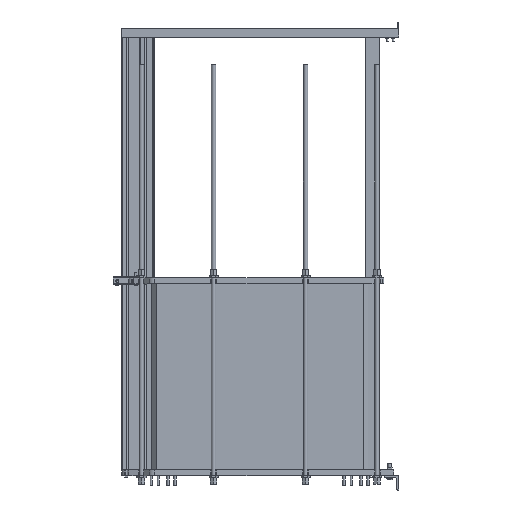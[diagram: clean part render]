
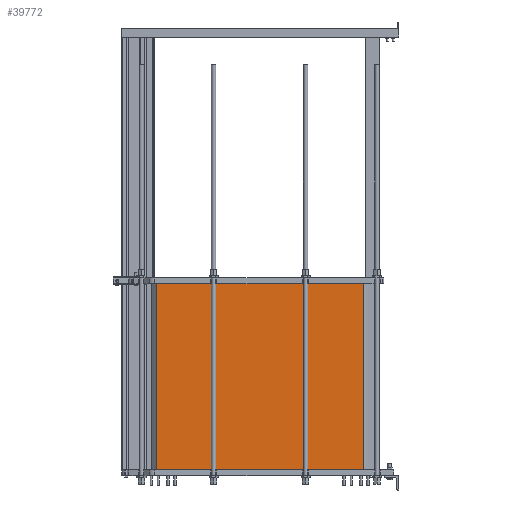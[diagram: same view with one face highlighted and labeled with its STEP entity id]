
A CAD part, left-side view. The second image highlights one B-rep face of the part: STEP entity #39772.
In plain terms, the highlighted planar face has unit normal (-1, 0, 0).
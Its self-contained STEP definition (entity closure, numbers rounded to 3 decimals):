
#21680=CARTESIAN_POINT('',(-187.5,705.0,1330.0));
#21681=VERTEX_POINT('',#21680);
#21688=CARTESIAN_POINT('',(-187.5,-731.0,1330.0));
#21689=VERTEX_POINT('',#21688);
#21690=CARTESIAN_POINT('',(-187.5,-731.0,1330.0));
#21691=DIRECTION('',(0.0,1.0,0.0));
#21692=VECTOR('',#21691,1436.0);
#21693=LINE('',#21690,#21692);
#21694=EDGE_CURVE('',#21689,#21681,#21693,.T.);
#39731=CARTESIAN_POINT('',(-187.5,-731.0,40.0));
#39732=VERTEX_POINT('',#39731);
#39733=CARTESIAN_POINT('',(-187.5,-731.0,40.0));
#39734=DIRECTION('',(0.0,0.0,1.0));
#39735=VECTOR('',#39734,1290.0);
#39736=LINE('',#39733,#39735);
#39737=EDGE_CURVE('',#39732,#21689,#39736,.T.);
#39749=CARTESIAN_POINT('',(-187.5,-731.0,40.0));
#39750=DIRECTION('',(-1.0,0.0,0.0));
#39751=DIRECTION('',(0.0,0.0,1.0));
#39752=AXIS2_PLACEMENT_3D('',#39749,#39750,#39751);
#39753=PLANE('',#39752);
#39754=ORIENTED_EDGE('',*,*,#21694,.T.);
#39755=CARTESIAN_POINT('',(-187.5,705.0,40.0));
#39756=VERTEX_POINT('',#39755);
#39757=CARTESIAN_POINT('',(-187.5,705.0,40.0));
#39758=DIRECTION('',(0.0,0.0,1.0));
#39759=VECTOR('',#39758,1290.0);
#39760=LINE('',#39757,#39759);
#39761=EDGE_CURVE('',#39756,#21681,#39760,.T.);
#39762=ORIENTED_EDGE('',*,*,#39761,.F.);
#39763=CARTESIAN_POINT('',(-187.5,-731.0,40.0));
#39764=DIRECTION('',(0.0,1.0,0.0));
#39765=VECTOR('',#39764,1436.0);
#39766=LINE('',#39763,#39765);
#39767=EDGE_CURVE('',#39732,#39756,#39766,.T.);
#39768=ORIENTED_EDGE('',*,*,#39767,.F.);
#39769=ORIENTED_EDGE('',*,*,#39737,.T.);
#39770=EDGE_LOOP('',(#39754,#39762,#39768,#39769));
#39771=FACE_OUTER_BOUND('',#39770,.T.);
#39772=ADVANCED_FACE('',(#39771),#39753,.T.);
